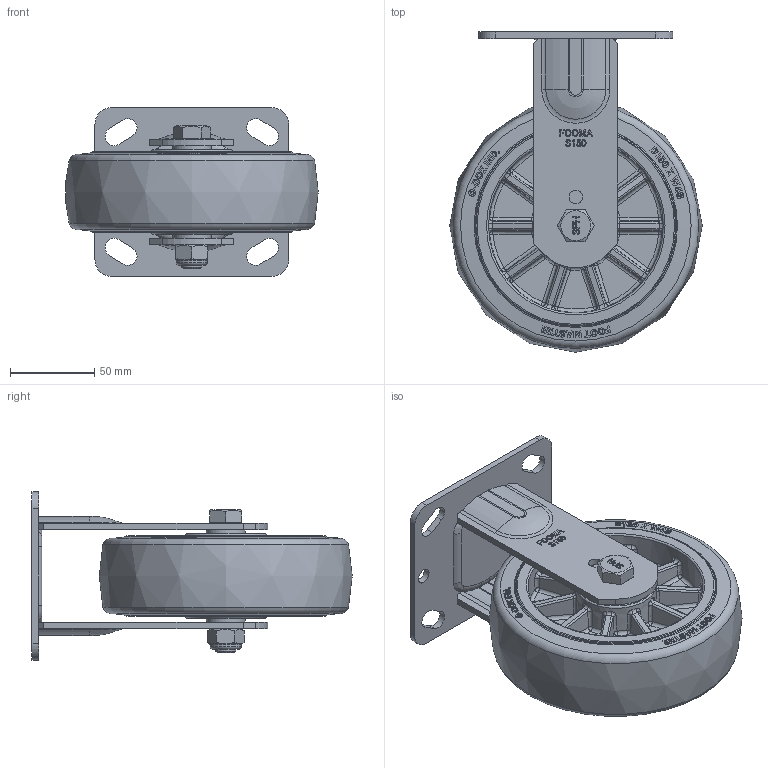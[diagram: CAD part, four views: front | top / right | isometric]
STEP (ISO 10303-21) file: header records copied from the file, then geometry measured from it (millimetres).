
FILE_DESCRIPTION(/* description */ (''),/* implementation_level */ '2;1');
FILE_NAME(/* name */ 'C:\Users\admin\Desktop\업무폴더\일자별 업무\2026\05월\05.15\변환\SPH-150-ARF-TUD&HRD.ipt.stp',/* time_stamp */ '2026-05-15T16:34:15+09:00',/* author */ ('admin'),/* organization */ ('지덕산업'),/* preprocessor_version */ 'ST-DEVELOPER v18.1',/* originating_system */ 'Autodesk Inventor 2021',/* authorisation */ '');
FILE_SCHEMA (('AUTOMOTIVE_DESIGN { 1 0 10303 214 3 1 1 }'));
Products named in the file (1): SPH-150-ARF-TUD&HRD
Bounding box: 149.76 x 190 x 100 mm (x, y, z)
Volume: 712644.8 mm3; surface area: 128845.6 mm2
Topology: 1 solids, 1 shells, 1522 faces, 3847 edges, 2421 vertices
Faces by surface type: bspline 601, plane 578, cylinder 133, sphere 84, torus 68, cone 58
Full cylindrical faces by diameter (mm): 8 x2, 9 x2, 12 x1, 18 x1, 18.5 x1
Entity records: 53756 total; most frequent: CARTESIAN_POINT 22113, ORIENTED_EDGE 7694, DIRECTION 4765, EDGE_CURVE 3847, VERTEX_POINT 2421, EDGE_LOOP 1634, AXIS2_PLACEMENT_3D 1618, LINE 1529
